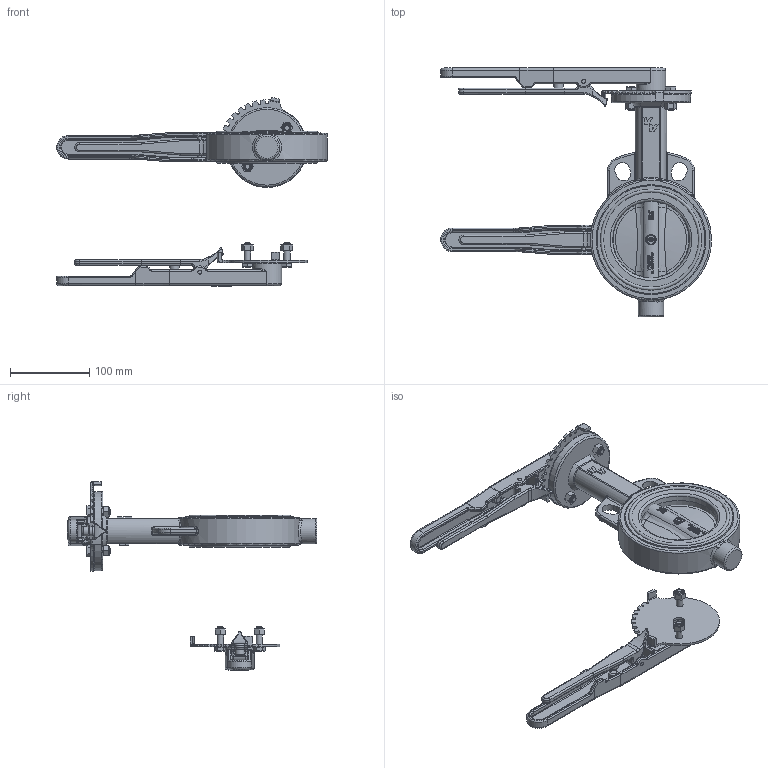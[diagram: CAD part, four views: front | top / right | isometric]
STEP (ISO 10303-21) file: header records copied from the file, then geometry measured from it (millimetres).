
FILE_DESCRIPTION( ( 'Unknown' ), '1' );
FILE_NAME( 'D:/Documentos Murilo/Desktop/VARB/2024/10_OUTUBRO/AMA 93_4/MONTAGEM AMA_93_4.stp', 'Unknown', ( 'Unknown' ), ( 'Unknown' ), 'PSStep 11.0', 'Unknown', ' ' );
FILE_SCHEMA( ( 'AUTOMOTIVE_DESIGN { 1 0 10303 214 1 1 1 1 }' ) );
Length unit declared in the file: millimetre
Products named in the file (13): Assem1; CORPO 4; ALAVANCA AMA 93; PARAFUSO; POSICIONADOR; SEDE 4; EIXO 4; BORBOLETA 4
Bounding box: 342.4 x 315.5 x 238.77 mm (x, y, z)
Volume: 1767838.6 mm3; surface area: 492479.7 mm2
Topology: 24 solids, 24 shells, 1738 faces, 4118 edges, 2502 vertices
Faces by surface type: plane 660, cylinder 508, bspline 216, torus 182, extrusion 104, cone 50, sphere 18
Full cylindrical faces by diameter (mm): 4.8 x2, 5 x4, 5.2 x2, 8 x4, 9 x12, 12 x4, 13 x2, 13.3 x4, 14 x2, 14.5 x4, 15.875 x2, 16 x2, 16.1 x4, 32 x2, 37 x2, 96 x2, 100 x2, 100.845 x2, 121.7 x4, 136.5 x4, 139 x4
Entity records: 45696 total; most frequent: CARTESIAN_POINT 19658, ORIENTED_EDGE 3866, DIRECTION 3785, EDGE_CURVE 1933, AXIS2_PLACEMENT_3D 1436, VERTEX_POINT 1226, EDGE_LOOP 1045, FACE_OUTER_BOUND 927
